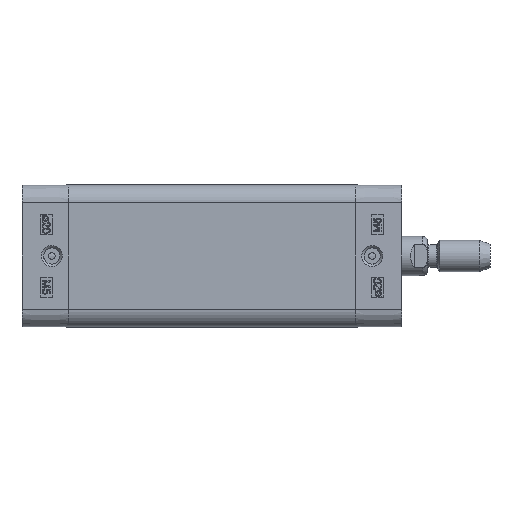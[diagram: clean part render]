
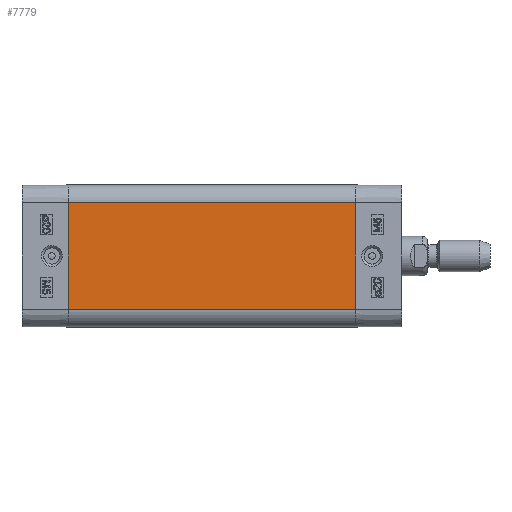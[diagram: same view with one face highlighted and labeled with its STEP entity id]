
A CAD part, left-side view. The second image highlights one B-rep face of the part: STEP entity #7779.
In plain terms, the highlighted planar face has unit normal (-1, 0, 0).
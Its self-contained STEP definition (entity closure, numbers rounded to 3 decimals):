
#6300=CARTESIAN_POINT('',(-18.15,-73.5,13.65));
#6301=VERTEX_POINT('',#6300);
#6308=CARTESIAN_POINT('',(-18.15,-73.5,-13.65));
#6309=VERTEX_POINT('',#6308);
#6310=CARTESIAN_POINT('',(-18.15,-73.5,-13.65));
#6311=DIRECTION('',(0.0,0.0,1.0));
#6312=VECTOR('',#6311,27.3);
#6313=LINE('',#6310,#6312);
#6314=EDGE_CURVE('',#6309,#6301,#6313,.T.);
#7737=CARTESIAN_POINT('',(-18.15,0.0,-13.65));
#7738=VERTEX_POINT('',#7737);
#7739=CARTESIAN_POINT('',(-18.15,0.0,-13.65));
#7740=DIRECTION('',(0.0,-1.0,0.0));
#7741=VECTOR('',#7740,73.5);
#7742=LINE('',#7739,#7741);
#7743=EDGE_CURVE('',#7738,#6309,#7742,.T.);
#7756=CARTESIAN_POINT('',(-18.15,0.0,-13.65));
#7757=DIRECTION('',(-1.0,0.0,0.0));
#7758=DIRECTION('',(0.0,0.0,1.0));
#7759=AXIS2_PLACEMENT_3D('',#7756,#7757,#7758);
#7760=PLANE('',#7759);
#7761=ORIENTED_EDGE('',*,*,#6314,.T.);
#7762=CARTESIAN_POINT('',(-18.15,0.0,13.65));
#7763=VERTEX_POINT('',#7762);
#7764=CARTESIAN_POINT('',(-18.15,0.0,13.65));
#7765=DIRECTION('',(0.0,-1.0,0.0));
#7766=VECTOR('',#7765,73.5);
#7767=LINE('',#7764,#7766);
#7768=EDGE_CURVE('',#7763,#6301,#7767,.T.);
#7769=ORIENTED_EDGE('',*,*,#7768,.F.);
#7770=CARTESIAN_POINT('',(-18.15,0.0,-13.65));
#7771=DIRECTION('',(0.0,0.0,1.0));
#7772=VECTOR('',#7771,27.3);
#7773=LINE('',#7770,#7772);
#7774=EDGE_CURVE('',#7738,#7763,#7773,.T.);
#7775=ORIENTED_EDGE('',*,*,#7774,.F.);
#7776=ORIENTED_EDGE('',*,*,#7743,.T.);
#7777=EDGE_LOOP('',(#7761,#7769,#7775,#7776));
#7778=FACE_OUTER_BOUND('',#7777,.T.);
#7779=ADVANCED_FACE('',(#7778),#7760,.T.);
